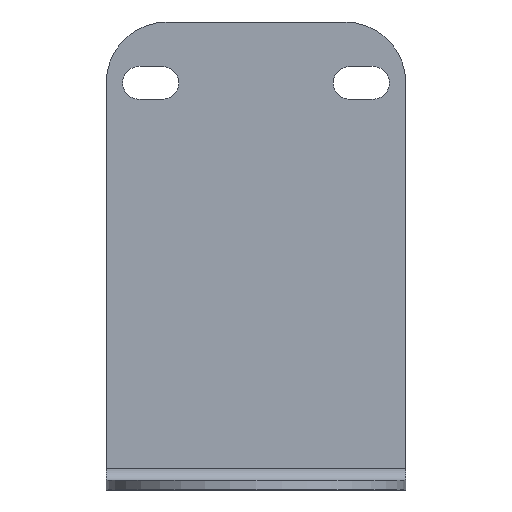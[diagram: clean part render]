
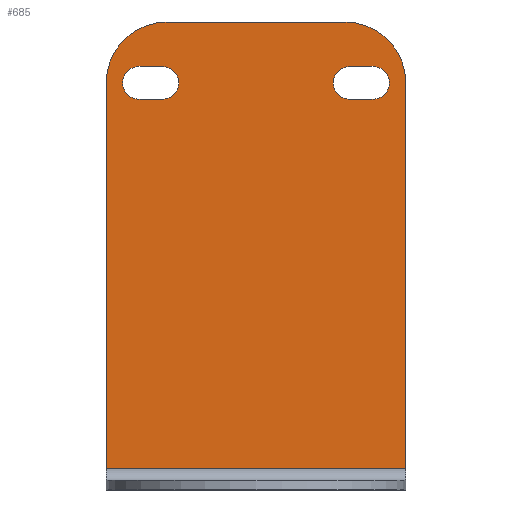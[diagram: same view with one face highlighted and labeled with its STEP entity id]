
A CAD part, top view. The second image highlights one B-rep face of the part: STEP entity #685.
In plain terms, the highlighted planar face has unit normal (0, 0, 1).
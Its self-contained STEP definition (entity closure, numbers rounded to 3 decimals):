
#16=FACE_BOUND('',#116,.T.);
#17=FACE_BOUND('',#117,.T.);
#22=CIRCLE('',#732,13.);
#37=CIRCLE('',#751,13.);
#38=CIRCLE('',#753,3.5);
#39=CIRCLE('',#754,3.5);
#40=CIRCLE('',#755,3.5);
#41=CIRCLE('',#756,3.5);
#78=FACE_OUTER_BOUND('',#115,.T.);
#115=EDGE_LOOP('',(#504,#505,#506,#507,#508,#509));
#116=EDGE_LOOP('',(#510,#511,#512,#513));
#117=EDGE_LOOP('',(#514,#515,#516,#517));
#152=LINE('',#1017,#220);
#159=LINE('',#1038,#227);
#172=LINE('',#1085,#240);
#175=LINE('',#1095,#243);
#176=LINE('',#1100,#244);
#177=LINE('',#1103,#245);
#178=LINE('',#1108,#246);
#179=LINE('',#1111,#247);
#220=VECTOR('',#805,1000.);
#227=VECTOR('',#824,1000.);
#240=VECTOR('',#861,1000.);
#243=VECTOR('',#874,1000.);
#244=VECTOR('',#877,1000.);
#245=VECTOR('',#880,1000.);
#246=VECTOR('',#883,1000.);
#247=VECTOR('',#886,1000.);
#288=VERTEX_POINT('',#1014);
#289=VERTEX_POINT('',#1016);
#291=VERTEX_POINT('',#1022);
#297=VERTEX_POINT('',#1036);
#318=VERTEX_POINT('',#1082);
#319=VERTEX_POINT('',#1084);
#322=VERTEX_POINT('',#1096);
#323=VERTEX_POINT('',#1097);
#324=VERTEX_POINT('',#1099);
#325=VERTEX_POINT('',#1101);
#326=VERTEX_POINT('',#1104);
#327=VERTEX_POINT('',#1105);
#328=VERTEX_POINT('',#1107);
#329=VERTEX_POINT('',#1109);
#356=EDGE_CURVE('',#288,#289,#152,.T.);
#360=EDGE_CURVE('',#288,#291,#22,.T.);
#367=EDGE_CURVE('',#291,#297,#159,.T.);
#390=EDGE_CURVE('',#319,#318,#172,.T.);
#395=EDGE_CURVE('',#318,#289,#37,.T.);
#396=EDGE_CURVE('',#297,#319,#175,.T.);
#397=EDGE_CURVE('',#322,#323,#38,.T.);
#398=EDGE_CURVE('',#324,#322,#176,.T.);
#399=EDGE_CURVE('',#325,#324,#39,.T.);
#400=EDGE_CURVE('',#323,#325,#177,.T.);
#401=EDGE_CURVE('',#326,#327,#40,.T.);
#402=EDGE_CURVE('',#328,#326,#178,.T.);
#403=EDGE_CURVE('',#329,#328,#41,.T.);
#404=EDGE_CURVE('',#327,#329,#179,.T.);
#504=ORIENTED_EDGE('',*,*,#367,.T.);
#505=ORIENTED_EDGE('',*,*,#396,.T.);
#506=ORIENTED_EDGE('',*,*,#390,.T.);
#507=ORIENTED_EDGE('',*,*,#395,.T.);
#508=ORIENTED_EDGE('',*,*,#356,.F.);
#509=ORIENTED_EDGE('',*,*,#360,.T.);
#510=ORIENTED_EDGE('',*,*,#397,.F.);
#511=ORIENTED_EDGE('',*,*,#398,.F.);
#512=ORIENTED_EDGE('',*,*,#399,.F.);
#513=ORIENTED_EDGE('',*,*,#400,.F.);
#514=ORIENTED_EDGE('',*,*,#401,.F.);
#515=ORIENTED_EDGE('',*,*,#402,.F.);
#516=ORIENTED_EDGE('',*,*,#403,.F.);
#517=ORIENTED_EDGE('',*,*,#404,.F.);
#664=PLANE('',#752);
#685=ADVANCED_FACE('',(#78,#16,#17),#664,.T.);
#732=AXIS2_PLACEMENT_3D('',#1024,#812,#813);
#751=AXIS2_PLACEMENT_3D('',#1093,#870,#871);
#752=AXIS2_PLACEMENT_3D('',#1094,#872,#873);
#753=AXIS2_PLACEMENT_3D('',#1098,#875,#876);
#754=AXIS2_PLACEMENT_3D('',#1102,#878,#879);
#755=AXIS2_PLACEMENT_3D('',#1106,#881,#882);
#756=AXIS2_PLACEMENT_3D('',#1110,#884,#885);
#805=DIRECTION('',(1.,0.,0.));
#812=DIRECTION('center_axis',(0.,0.,1.));
#813=DIRECTION('ref_axis',(1.,0.,0.));
#824=DIRECTION('',(0.,-1.,0.));
#861=DIRECTION('',(0.,1.,0.));
#870=DIRECTION('center_axis',(0.,0.,1.));
#871=DIRECTION('ref_axis',(1.,0.,0.));
#872=DIRECTION('center_axis',(0.,0.,1.));
#873=DIRECTION('ref_axis',(1.,0.,0.));
#874=DIRECTION('',(1.,0.,0.));
#875=DIRECTION('center_axis',(0.,0.,1.));
#876=DIRECTION('ref_axis',(1.,0.,0.));
#877=DIRECTION('',(-1.,0.,0.));
#878=DIRECTION('center_axis',(0.,0.,1.));
#879=DIRECTION('ref_axis',(1.,0.,0.));
#880=DIRECTION('',(1.,0.,0.));
#881=DIRECTION('center_axis',(0.,0.,1.));
#882=DIRECTION('ref_axis',(-1.,0.,0.));
#883=DIRECTION('',(-1.,0.,0.));
#884=DIRECTION('center_axis',(0.,0.,1.));
#885=DIRECTION('ref_axis',(-1.,0.,0.));
#886=DIRECTION('',(1.,0.,0.));
#1014=CARTESIAN_POINT('',(13.,100.,1.));
#1016=CARTESIAN_POINT('',(51.,100.,1.));
#1017=CARTESIAN_POINT('',(0.,100.,1.));
#1022=CARTESIAN_POINT('',(0.,87.,1.));
#1024=CARTESIAN_POINT('Origin',(13.,87.,1.));
#1036=CARTESIAN_POINT('',(0.,4.5,1.));
#1038=CARTESIAN_POINT('',(0.,0.,1.));
#1082=CARTESIAN_POINT('',(64.,87.,1.));
#1084=CARTESIAN_POINT('',(64.,4.5,1.));
#1085=CARTESIAN_POINT('',(64.,0.,1.));
#1093=CARTESIAN_POINT('Origin',(51.,87.,1.));
#1094=CARTESIAN_POINT('Origin',(0.,0.,1.));
#1095=CARTESIAN_POINT('',(64.,4.5,1.));
#1096=CARTESIAN_POINT('',(7.,90.5,1.));
#1097=CARTESIAN_POINT('',(7.,83.5,1.));
#1098=CARTESIAN_POINT('Origin',(7.,87.,1.));
#1099=CARTESIAN_POINT('',(12.,90.5,1.));
#1100=CARTESIAN_POINT('',(7.,90.5,1.));
#1101=CARTESIAN_POINT('',(12.,83.5,1.));
#1102=CARTESIAN_POINT('Origin',(12.,87.,1.));
#1103=CARTESIAN_POINT('',(7.,83.5,1.));
#1104=CARTESIAN_POINT('',(52.,90.5,1.));
#1105=CARTESIAN_POINT('',(52.,83.5,1.));
#1106=CARTESIAN_POINT('Origin',(52.,87.,1.));
#1107=CARTESIAN_POINT('',(57.,90.5,1.));
#1108=CARTESIAN_POINT('',(57.,90.5,1.));
#1109=CARTESIAN_POINT('',(57.,83.5,1.));
#1110=CARTESIAN_POINT('Origin',(57.,87.,1.));
#1111=CARTESIAN_POINT('',(57.,83.5,1.));
